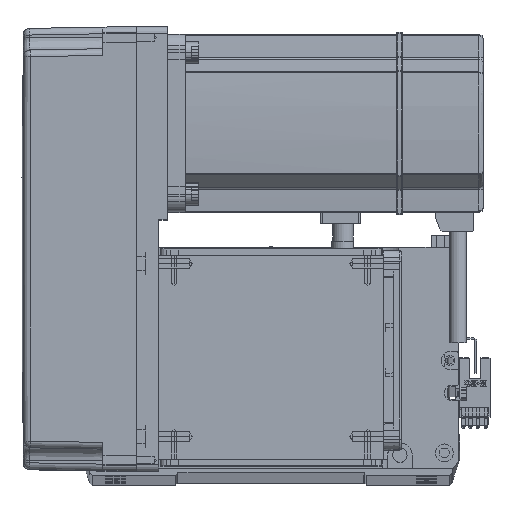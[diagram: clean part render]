
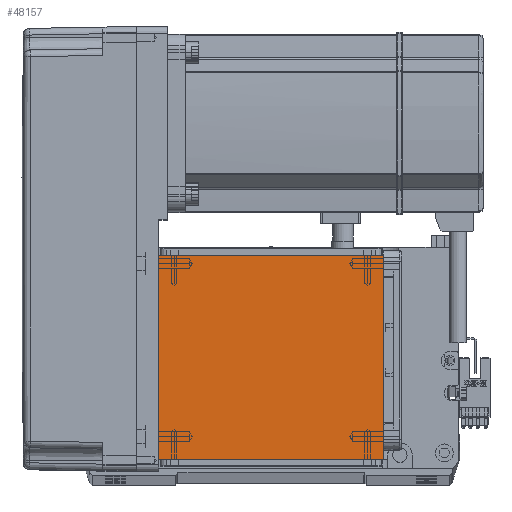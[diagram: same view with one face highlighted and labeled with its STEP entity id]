
A CAD part, top view. The second image highlights one B-rep face of the part: STEP entity #48157.
In plain terms, the highlighted planar face has unit normal (0, 0, 1).
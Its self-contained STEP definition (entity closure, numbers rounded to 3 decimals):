
#1473 = CARTESIAN_POINT ( 'NONE',  ( 0., 0., 115. ) ) ;
#1516 = VERTEX_POINT ( 'NONE', #55209 ) ;
#3299 = LINE ( 'NONE', #12290, #11045 ) ;
#3797 = CARTESIAN_POINT ( 'NONE',  ( 50.5, 122., 115. ) ) ;
#4067 = ORIENTED_EDGE ( 'NONE', *, *, #39420, .T. ) ;
#4601 = EDGE_LOOP ( 'NONE', ( #35520, #59554, #43626, #4067 ) ) ;
#8407 = EDGE_CURVE ( 'NONE', #30531, #1516, #3299, .T. ) ;
#11045 = VECTOR ( 'NONE', #32608, 1000. ) ;
#12290 = CARTESIAN_POINT ( 'NONE',  ( -70.004, 20., 115. ) ) ;
#14927 = DIRECTION ( 'NONE',  ( 1., 0., 0. ) ) ;
#18274 = FACE_OUTER_BOUND ( 'NONE', #4601, .T. ) ;
#19278 = VERTEX_POINT ( 'NONE', #62714 ) ;
#19656 = CARTESIAN_POINT ( 'NONE',  ( 50.5, 20., 115. ) ) ;
#25146 = VECTOR ( 'NONE', #14927, 1000. ) ;
#25300 = LINE ( 'NONE', #39449, #26838 ) ;
#26131 = LINE ( 'NONE', #3797, #54803 ) ;
#26838 = VECTOR ( 'NONE', #53779, 1000. ) ;
#28265 = LINE ( 'NONE', #45188, #25146 ) ;
#30531 = VERTEX_POINT ( 'NONE', #19656 ) ;
#32608 = DIRECTION ( 'NONE',  ( -1., 0., 0. ) ) ;
#34156 = AXIS2_PLACEMENT_3D ( 'NONE', #1473, #36139, #35697 ) ;
#35520 = ORIENTED_EDGE ( 'NONE', *, *, #42871, .F. ) ;
#35697 = DIRECTION ( 'NONE',  ( 1., 0., 0. ) ) ;
#36139 = DIRECTION ( 'NONE',  ( 0., 0., 1. ) ) ;
#39420 = EDGE_CURVE ( 'NONE', #30531, #60322, #26131, .T. ) ;
#39449 = CARTESIAN_POINT ( 'NONE',  ( -50.5, 122., 115. ) ) ;
#40200 = CARTESIAN_POINT ( 'NONE',  ( 50.5, 111.5, 115. ) ) ;
#42871 = EDGE_CURVE ( 'NONE', #19278, #60322, #28265, .T. ) ;
#43626 = ORIENTED_EDGE ( 'NONE', *, *, #8407, .F. ) ;
#45188 = CARTESIAN_POINT ( 'NONE',  ( -70.004, 111.5, 115. ) ) ;
#48157 = ADVANCED_FACE ( 'NONE', ( #18274 ), #55453, .T. ) ;
#48339 = DIRECTION ( 'NONE',  ( 0., 1., 0. ) ) ;
#48356 = EDGE_CURVE ( 'NONE', #19278, #1516, #25300, .T. ) ;
#53779 = DIRECTION ( 'NONE',  ( 0., -1., 0. ) ) ;
#54803 = VECTOR ( 'NONE', #48339, 1000. ) ;
#55209 = CARTESIAN_POINT ( 'NONE',  ( -50.5, 20., 115. ) ) ;
#55453 = PLANE ( 'NONE',  #34156 ) ;
#59554 = ORIENTED_EDGE ( 'NONE', *, *, #48356, .T. ) ;
#60322 = VERTEX_POINT ( 'NONE', #40200 ) ;
#62714 = CARTESIAN_POINT ( 'NONE',  ( -50.5, 111.5, 115. ) ) ;
